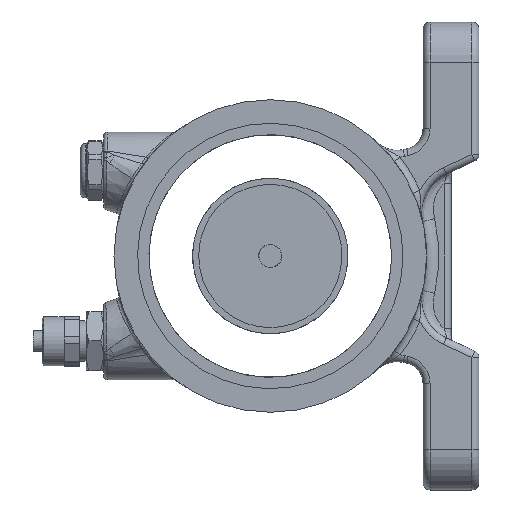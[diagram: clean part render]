
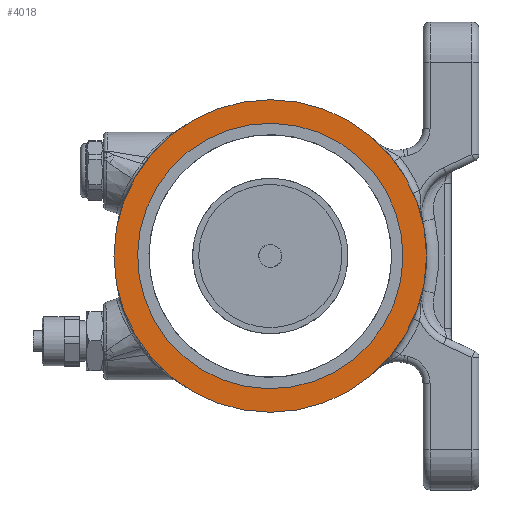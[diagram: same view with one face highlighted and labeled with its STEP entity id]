
A CAD part, left-side view. The second image highlights one B-rep face of the part: STEP entity #4018.
In plain terms, the highlighted planar face has unit normal (-1, 0, 0).
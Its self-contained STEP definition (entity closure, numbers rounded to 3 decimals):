
#280=FACE_BOUND('',#668,.T.);
#315=PLANE('',#4321);
#397=FACE_OUTER_BOUND('',#667,.T.);
#667=EDGE_LOOP('',(#2520));
#668=EDGE_LOOP('',(#2521));
#1310=CIRCLE('',#4322,44.75);
#1311=CIRCLE('',#4323,38.);
#1569=VERTEX_POINT('',#5908);
#1570=VERTEX_POINT('',#5910);
#1923=EDGE_CURVE('',#1569,#1569,#1310,.T.);
#1924=EDGE_CURVE('',#1570,#1570,#1311,.T.);
#2520=ORIENTED_EDGE('',*,*,#1923,.F.);
#2521=ORIENTED_EDGE('',*,*,#1924,.T.);
#4018=ADVANCED_FACE('',(#397,#280),#315,.T.);
#4321=AXIS2_PLACEMENT_3D('',#5907,#4812,#4813);
#4322=AXIS2_PLACEMENT_3D('',#5909,#4814,#4815);
#4323=AXIS2_PLACEMENT_3D('',#5911,#4816,#4817);
#4812=DIRECTION('center_axis',(-1.,0.,0.));
#4813=DIRECTION('ref_axis',(0.,0.,1.));
#4814=DIRECTION('center_axis',(1.,0.,0.));
#4815=DIRECTION('ref_axis',(0.,1.,0.));
#4816=DIRECTION('center_axis',(1.,0.,0.));
#4817=DIRECTION('ref_axis',(0.,1.,0.));
#5907=CARTESIAN_POINT('Origin',(-20.1,41.325,0.));
#5908=CARTESIAN_POINT('',(-20.1,-44.75,0.));
#5909=CARTESIAN_POINT('Origin',(-20.1,0.,0.));
#5910=CARTESIAN_POINT('',(-20.1,-35.957,12.291));
#5911=CARTESIAN_POINT('Origin',(-20.1,0.,0.));
